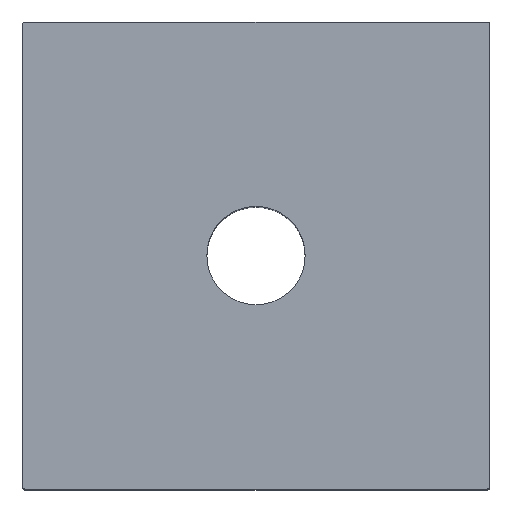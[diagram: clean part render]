
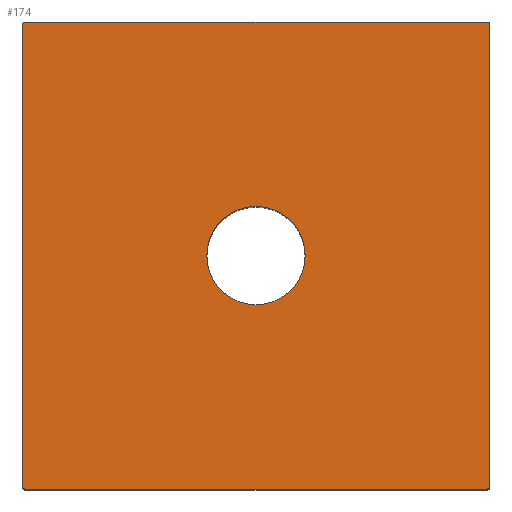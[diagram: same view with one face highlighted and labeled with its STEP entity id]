
A CAD part, top view. The second image highlights one B-rep face of the part: STEP entity #174.
In plain terms, the highlighted planar face has unit normal (0, 0, 1).
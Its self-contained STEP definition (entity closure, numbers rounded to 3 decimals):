
#174=ADVANCED_FACE('',(#213,#214),#202,.T.);
#202=PLANE('',#625);
#213=FACE_BOUND('',#217,.T.);
#214=FACE_BOUND('',#218,.T.);
#217=EDGE_LOOP('',(#323,#324,#325,#326,#327,#328,#329,#330));
#218=EDGE_LOOP('',(#331,#332));
#249=LINE('',#781,#283);
#250=LINE('',#785,#284);
#251=LINE('',#789,#285);
#252=LINE('',#793,#286);
#283=VECTOR('',#670,1.);
#284=VECTOR('',#673,1.);
#285=VECTOR('',#676,1.);
#286=VECTOR('',#679,1.);
#323=ORIENTED_EDGE('',*,*,#531,.T.);
#324=ORIENTED_EDGE('',*,*,#532,.T.);
#325=ORIENTED_EDGE('',*,*,#533,.T.);
#326=ORIENTED_EDGE('',*,*,#534,.T.);
#327=ORIENTED_EDGE('',*,*,#535,.T.);
#328=ORIENTED_EDGE('',*,*,#536,.T.);
#329=ORIENTED_EDGE('',*,*,#537,.T.);
#330=ORIENTED_EDGE('',*,*,#538,.T.);
#331=ORIENTED_EDGE('',*,*,#539,.T.);
#332=ORIENTED_EDGE('',*,*,#540,.T.);
#479=VERTEX_POINT('',#779);
#480=VERTEX_POINT('',#780);
#481=VERTEX_POINT('',#782);
#482=VERTEX_POINT('',#784);
#483=VERTEX_POINT('',#786);
#484=VERTEX_POINT('',#788);
#485=VERTEX_POINT('',#790);
#486=VERTEX_POINT('',#792);
#487=VERTEX_POINT('',#795);
#488=VERTEX_POINT('',#796);
#531=EDGE_CURVE('',#479,#480,#605,.T.);
#532=EDGE_CURVE('',#480,#481,#249,.T.);
#533=EDGE_CURVE('',#481,#482,#606,.T.);
#534=EDGE_CURVE('',#482,#483,#250,.T.);
#535=EDGE_CURVE('',#483,#484,#607,.T.);
#536=EDGE_CURVE('',#484,#485,#251,.T.);
#537=EDGE_CURVE('',#485,#486,#608,.T.);
#538=EDGE_CURVE('',#486,#479,#252,.T.);
#539=EDGE_CURVE('',#487,#488,#609,.T.);
#540=EDGE_CURVE('',#488,#487,#610,.T.);
#605=CIRCLE('',#619,0.5);
#606=CIRCLE('',#620,0.5);
#607=CIRCLE('',#621,0.5);
#608=CIRCLE('',#622,0.5);
#609=CIRCLE('',#623,10.);
#610=CIRCLE('',#624,10.);
#619=AXIS2_PLACEMENT_3D('',#778,#668,#669);
#620=AXIS2_PLACEMENT_3D('',#783,#671,#672);
#621=AXIS2_PLACEMENT_3D('',#787,#674,#675);
#622=AXIS2_PLACEMENT_3D('',#791,#677,#678);
#623=AXIS2_PLACEMENT_3D('',#794,#680,#681);
#624=AXIS2_PLACEMENT_3D('',#797,#682,#683);
#625=AXIS2_PLACEMENT_3D('',#798,#684,#685);
#668=DIRECTION('',(0.,0.,1.));
#669=DIRECTION('',(-0.707,0.707,0.));
#670=DIRECTION('',(0.,1.,0.));
#671=DIRECTION('',(0.,0.,1.));
#672=DIRECTION('',(-0.707,-0.707,0.));
#673=DIRECTION('',(-1.,0.,0.));
#674=DIRECTION('',(0.,0.,1.));
#675=DIRECTION('',(0.707,-0.707,0.));
#676=DIRECTION('',(0.,-1.,0.));
#677=DIRECTION('',(0.,0.,1.));
#678=DIRECTION('',(0.707,0.707,0.));
#679=DIRECTION('',(1.,0.,0.));
#680=DIRECTION('',(0.,0.,-1.));
#681=DIRECTION('',(-1.,0.,0.));
#682=DIRECTION('',(0.,0.,-1.));
#683=DIRECTION('',(1.,0.,0.));
#684=DIRECTION('',(0.,0.,1.));
#685=DIRECTION('',(-1.,0.,0.));
#778=CARTESIAN_POINT('',(47.,-47.,103.));
#779=CARTESIAN_POINT('',(47.,-47.5,103.));
#780=CARTESIAN_POINT('',(47.5,-47.,103.));
#781=CARTESIAN_POINT('',(47.5,-47.,103.));
#782=CARTESIAN_POINT('',(47.5,47.,103.));
#783=CARTESIAN_POINT('',(47.,47.,103.));
#784=CARTESIAN_POINT('',(47.,47.5,103.));
#785=CARTESIAN_POINT('',(-47.,47.5,103.));
#786=CARTESIAN_POINT('',(-47.,47.5,103.));
#787=CARTESIAN_POINT('',(-47.,47.,103.));
#788=CARTESIAN_POINT('',(-47.5,47.,103.));
#789=CARTESIAN_POINT('',(-47.5,-47.,103.));
#790=CARTESIAN_POINT('',(-47.5,-47.,103.));
#791=CARTESIAN_POINT('',(-47.,-47.,103.));
#792=CARTESIAN_POINT('',(-47.,-47.5,103.));
#793=CARTESIAN_POINT('',(-47.,-47.5,103.));
#794=CARTESIAN_POINT('',(0.,0.,103.));
#795=CARTESIAN_POINT('',(0.,10.,103.));
#796=CARTESIAN_POINT('',(0.,-10.,103.));
#797=CARTESIAN_POINT('',(0.,0.,103.));
#798=CARTESIAN_POINT('',(47.,-47.5,103.));
